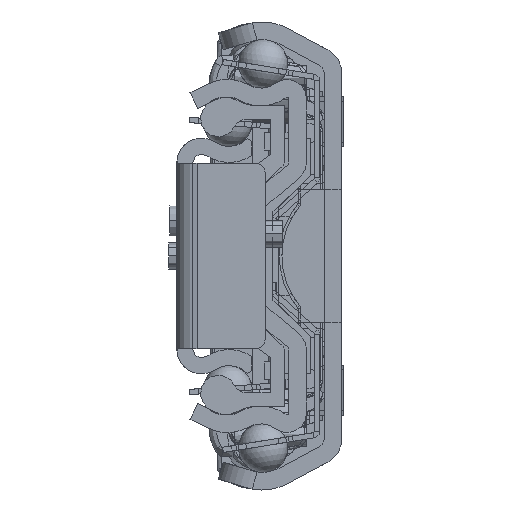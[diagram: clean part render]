
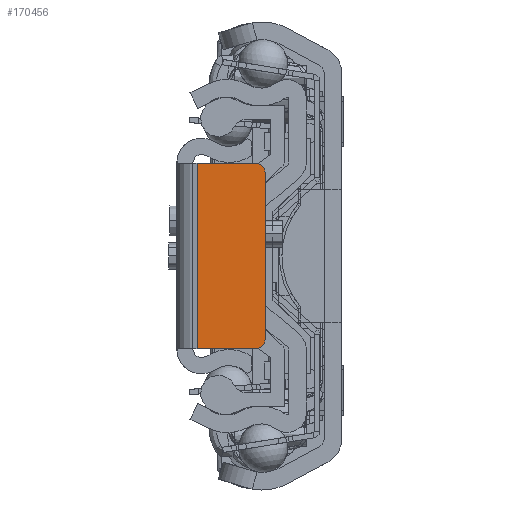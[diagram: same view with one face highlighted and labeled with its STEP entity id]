
A CAD part, left-side view. The second image highlights one B-rep face of the part: STEP entity #170456.
In plain terms, the highlighted planar face has unit normal (-1, 0, 0).
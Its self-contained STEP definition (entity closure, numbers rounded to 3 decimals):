
#166246=DIRECTION('',(0.,-1.,0.));
#166247=VECTOR('',#166246,6.7);
#166248=CARTESIAN_POINT('',(0.,-2.3,10.5));
#166249=LINE('',#166248,#166247);
#167017=DIRECTION('',(0.,-1.,0.));
#167018=VECTOR('',#167017,6.7);
#167019=CARTESIAN_POINT('',(0.,-2.3,-10.5));
#167020=LINE('',#167019,#167018);
#167021=CARTESIAN_POINT('',(0.,-9.,9.5));
#167022=DIRECTION('',(-1.,0.,0.));
#167023=DIRECTION('',(0.,-1.,0.));
#167024=AXIS2_PLACEMENT_3D('',#167021,#167022,#167023);
#167026=CARTESIAN_POINT('',(0.,-9.,-9.5));
#167027=DIRECTION('',(-1.,0.,0.));
#167028=DIRECTION('',(0.,0.,-1.));
#167029=AXIS2_PLACEMENT_3D('',#167026,#167027,#167028);
#167031=DIRECTION('',(0.,0.,1.));
#167032=VECTOR('',#167031,21.);
#167033=CARTESIAN_POINT('',(0.,-2.3,-10.5));
#167034=LINE('',#167033,#167032);
#167043=DIRECTION('',(0.,0.,1.));
#167044=VECTOR('',#167043,19.);
#167045=CARTESIAN_POINT('',(0.,-10.,-9.5));
#167046=LINE('',#167045,#167044);
#169120=CARTESIAN_POINT('',(0.,-2.3,-10.5));
#169121=CARTESIAN_POINT('',(0.,-2.3,10.5));
#169122=VERTEX_POINT('',#169120);
#169123=VERTEX_POINT('',#169121);
#169145=CARTESIAN_POINT('',(0.,-10.,9.5));
#169146=VERTEX_POINT('',#169145);
#169147=CARTESIAN_POINT('',(0.,-9.,10.5));
#169148=VERTEX_POINT('',#169147);
#169149=CARTESIAN_POINT('',(0.,-9.,-10.5));
#169150=CARTESIAN_POINT('',(0.,-10.,-9.5));
#169151=VERTEX_POINT('',#169149);
#169152=VERTEX_POINT('',#169150);
#170441=CARTESIAN_POINT('',(0.,-2.3,-10.5));
#170442=DIRECTION('',(-1.,0.,0.));
#170443=DIRECTION('',(0.,-1.,0.));
#170444=AXIS2_PLACEMENT_3D('',#170441,#170442,#170443);
#170445=PLANE('',#170444);
#170446=ORIENTED_EDGE('',*,*,#169990,.F.);
#170448=ORIENTED_EDGE('',*,*,#170447,.F.);
#170449=ORIENTED_EDGE('',*,*,#170432,.F.);
#170450=ORIENTED_EDGE('',*,*,#170422,.F.);
#170452=ORIENTED_EDGE('',*,*,#170451,.T.);
#170453=ORIENTED_EDGE('',*,*,#169967,.T.);
#170454=EDGE_LOOP('',(#170446,#170448,#170449,#170450,#170452,#170453));
#170455=FACE_OUTER_BOUND('',#170454,.F.);
#167025=CIRCLE('',#167024,1.);
#167030=CIRCLE('',#167029,1.);
#169967=EDGE_CURVE('',#169123,#169148,#166249,.T.);
#169990=EDGE_CURVE('',#169146,#169148,#167025,.T.);
#170422=EDGE_CURVE('',#169122,#169151,#167020,.T.);
#170432=EDGE_CURVE('',#169151,#169152,#167030,.T.);
#170447=EDGE_CURVE('',#169152,#169146,#167046,.T.);
#170451=EDGE_CURVE('',#169122,#169123,#167034,.T.);
#170456=ADVANCED_FACE('',(#170455),#170445,.T.);
